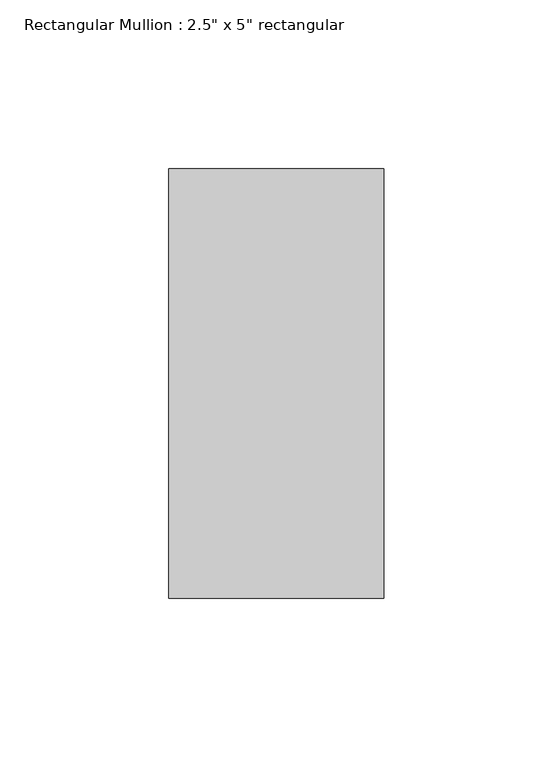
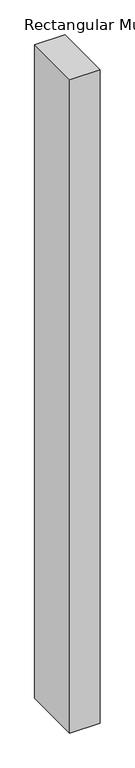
"""IFC4 building model written with IfcOpenShell, lengths in millimetres: member geometry."""

from ifc_helpers import new_model, si_unit, frame, origin, place, context, project, spatial, polyline, outline, extrude, source, transform, mapped, element, save


def member_8e4b14e5(model_context):
    return source(origin(), model_context, "Body", "SweptSolid", [
        extrude(outline(polyline([(31.75, 63.5), (31.75, -63.5), (-31.75, -63.5), (-31.75, 63.5), (31.75, 63.5)])), frame((0.0, 0.0, -1446.3888889), z_axis=(0.0, 0.0, 1.0), x_axis=(1.0, 0.0, 0.0)), (0.0, 0.0, 1.0), 1446.3888889),
    ])


if __name__ == "__main__":
    model = new_model("IFC4")
    model_context = context("Model", 3, world=origin())
    ifc_project = project(units=[si_unit("LENGTHUNIT", "METRE", prefix="MILLI")], contexts=[model_context])
    site = spatial("IfcSite", under=ifc_project)
    building = spatial("IfcBuilding", under=site)
    placement = place(None, origin())
    member_shape = member_8e4b14e5(model_context)
    element("IfcMember", 1, ObjectType="Rectangular Mullion : 2.5\" x 5\" rectangular", at=placement, inside=building, context=model_context, shape_type="MappedRepresentation", body=[
        mapped(member_shape, transform((0.0, 0.0, 0.0), x_axis=(1.0, 0.0, 0.0), y_axis=(0.0, 1.0, 0.0), z_axis=(0.0, 0.0, 1.0))),
    ])
    save(model, "model.ifc")
